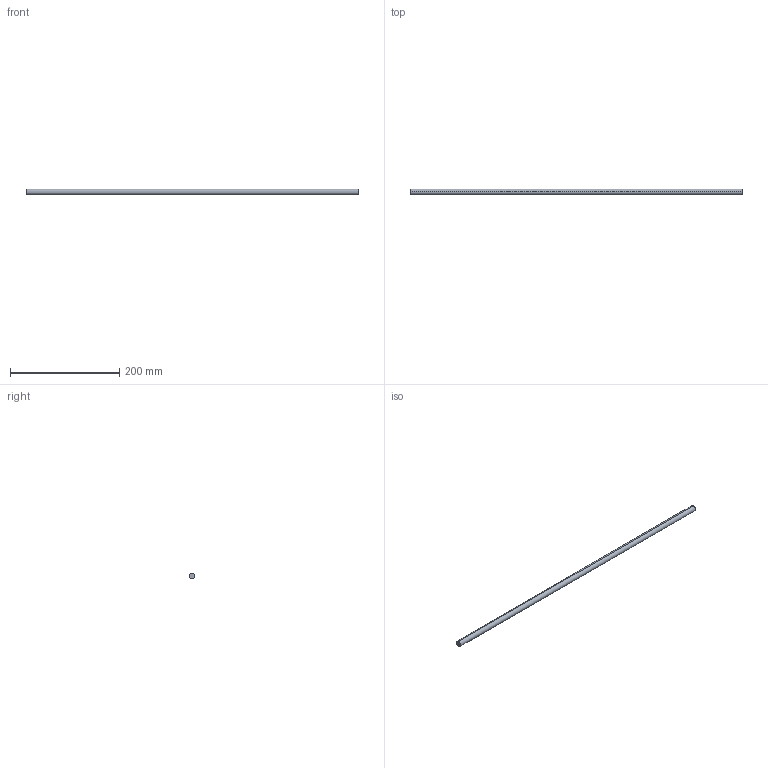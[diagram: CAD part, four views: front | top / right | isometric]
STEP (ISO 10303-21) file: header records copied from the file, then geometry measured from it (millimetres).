
FILE_DESCRIPTION (( 'STEP AP214' ), '1' );
FILE_NAME ('Querreling_Frontblende_Innenlade_KS19_KAB-700.step', '2010-09-22T15:05:35', ( 'grass' ), ( '' ), 'SwSTEP 2.0', 'SolidWorks 2010', '' );
FILE_SCHEMA (( 'AUTOMOTIVE_DESIGN' ));
Length unit declared in the file: millimetre
Products named in the file (1): Querreling_Frontblende_Innenlade_KS19_KAB-700
Bounding box: 609 x 11 x 11 mm (x, y, z)
Volume: 57875.2 mm3; surface area: 21235.6 mm2
Topology: 1 solids, 1 shells, 4 faces, 6 edges, 4 vertices
Faces by surface type: cylinder 2, plane 2
Entity records: 128 total; most frequent: DIRECTION 20, CARTESIAN_POINT 15, ORIENTED_EDGE 12, AXIS2_PLACEMENT_3D 9, EDGE_CURVE 6, EDGE_LOOP 4, CIRCLE 4, FACE_OUTER_BOUND 4
